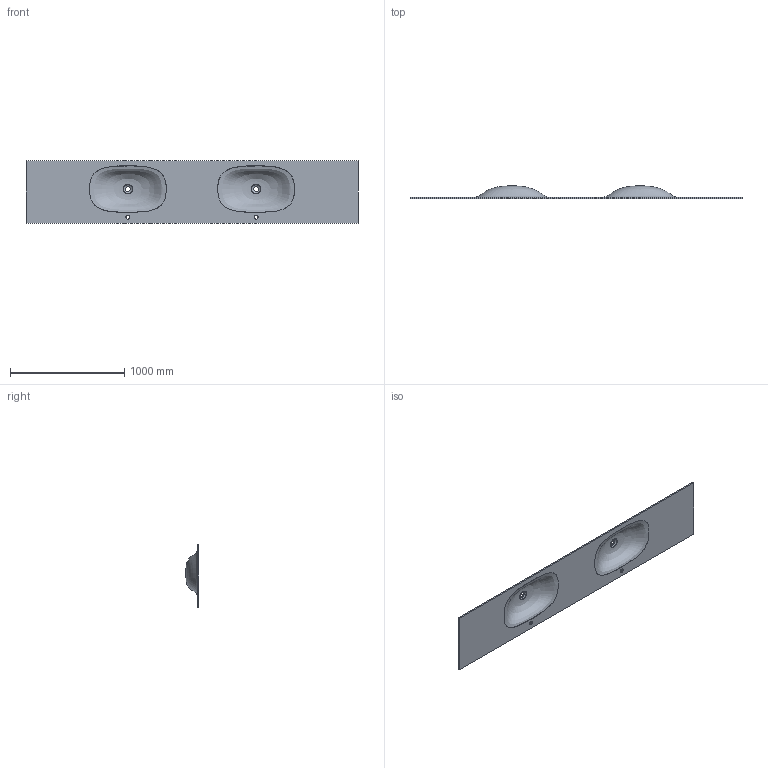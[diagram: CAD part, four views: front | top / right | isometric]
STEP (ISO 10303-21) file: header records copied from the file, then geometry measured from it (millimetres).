
FILE_DESCRIPTION (( 'STEP AP214' ), '1' );
FILE_NAME ('TRINITY D 2900.STEP', '2024-05-10T08:46:29', ( '' ), ( '' ), 'SwSTEP 2.0', 'SolidWorks 2021', '' );
FILE_SCHEMA (( 'AUTOMOTIVE_DESIGN' ));
Length unit declared in the file: millimetre
Products named in the file (1): TRINITY D 2900
Bounding box: 2900 x 121.36 x 550 mm (x, y, z)
Volume: 19320984.4 mm3; surface area: 3201743.3 mm2
Topology: 3 solids, 3 shells, 28 faces, 66 edges, 42 vertices
Faces by surface type: bspline 10, plane 8, cylinder 6, cone 4
Full cylindrical faces by diameter (mm): 35 x2, 47.09 x2, 80 x2
Entity records: 71614 total; most frequent: CARTESIAN_POINT 71073, DIRECTION 78, ORIENTED_EDGE 76, EDGE_LOOP 58, FACE_OUTER_BOUND 44, EDGE_CURVE 38, VERTEX_POINT 34, AXIS2_PLACEMENT_3D 33
